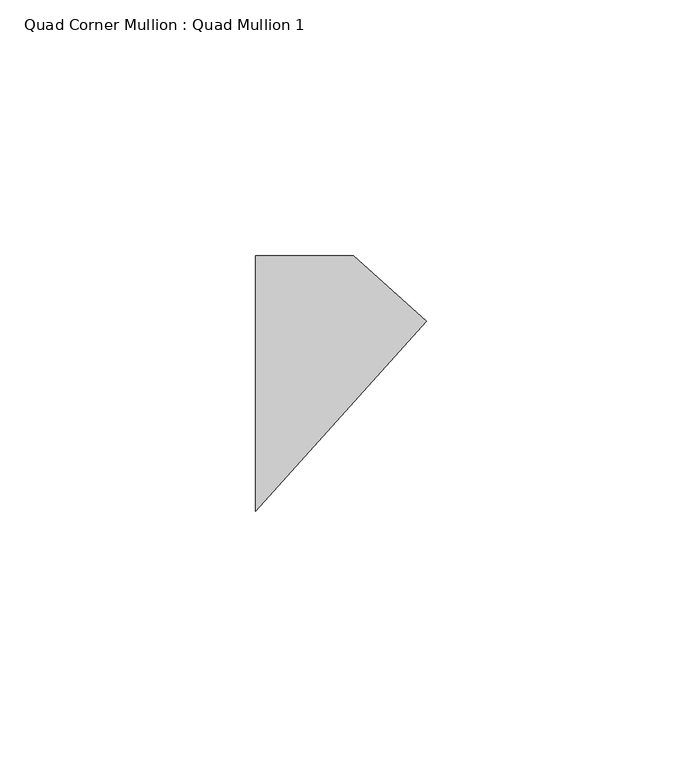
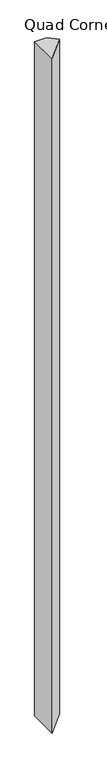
"""IFC4 building model written with IfcOpenShell, lengths in millimetres: member geometry, Quad Corner Mullion : Quad Mullion 1."""

from ifc_helpers import new_model, si_unit, frame, origin, place, context, project, spatial, polyline, outline, extrude, source, transform, mapped, element, save


def quad_corner_mullion_quad_mullion_1_62778023(model_context):
    return source(origin(), model_context, "Body", "SweptSolid", [
        extrude(outline(polyline([(23.8599294, 12.1572413), (-9.5966009, -25.0), (-9.5966009, 25.0), (9.5966009, 25.0), (23.8599294, 12.1572413)])), frame((0.0, 0.0, -1180.0), z_axis=(0.0, 0.0, 1.0), x_axis=(1.0, 0.0, 0.0)), (0.0, 0.0, 1.0), 1180.0),
    ])


if __name__ == "__main__":
    model = new_model("IFC4")
    model_context = context("Model", 3, world=origin())
    ifc_project = project(units=[si_unit("LENGTHUNIT", "METRE", prefix="MILLI")], contexts=[model_context])
    site = spatial("IfcSite", under=ifc_project)
    building = spatial("IfcBuilding", under=site)
    placement = place(None, origin())
    quad_corner_mullion_quad_mullion_1_shape = quad_corner_mullion_quad_mullion_1_62778023(model_context)
    element("IfcMember", 1, ObjectType="Quad Corner Mullion : Quad Mullion 1", at=placement, inside=building, context=model_context, shape_type="MappedRepresentation", body=[
        mapped(quad_corner_mullion_quad_mullion_1_shape, transform((0.0, 0.0, 0.0), x_axis=(1.0, 0.0, 0.0), y_axis=(0.0, 1.0, 0.0), z_axis=(0.0, 0.0, 1.0))),
    ])
    save(model, "model.ifc")
